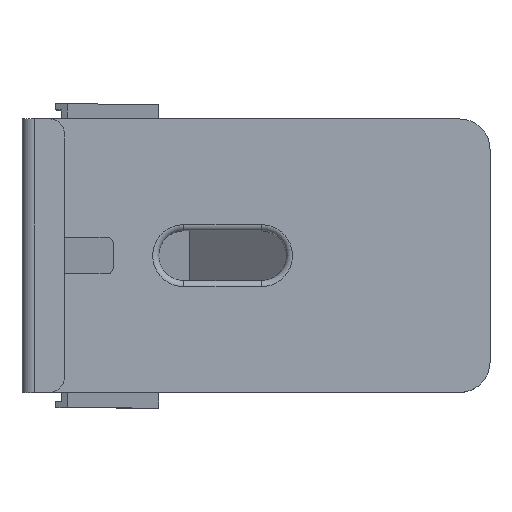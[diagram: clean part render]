
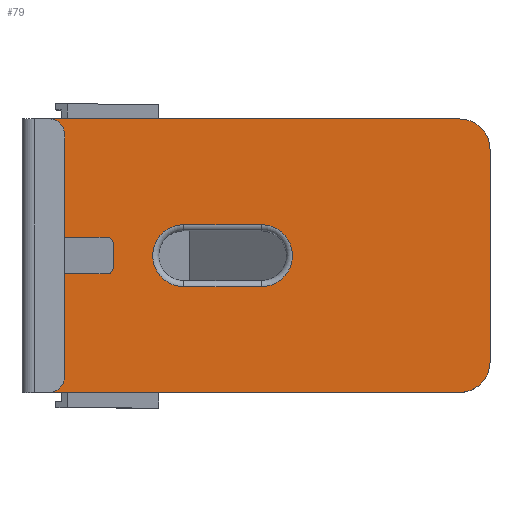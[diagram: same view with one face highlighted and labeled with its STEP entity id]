
A CAD part, top view. The second image highlights one B-rep face of the part: STEP entity #79.
In plain terms, the highlighted planar face has unit normal (0, 0, 1).
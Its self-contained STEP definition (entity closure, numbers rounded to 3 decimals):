
#59=FACE_BOUND('',#245,.T.);
#60=FACE_BOUND('',#246,.T.);
#79=ADVANCED_FACE('',(#59,#60),#144,.T.);
#144=PLANE('',#1296);
#245=EDGE_LOOP('',(#386,#387,#388,#389));
#246=EDGE_LOOP('',(#390,#391,#392,#393,#394,#395,#396,#397,#398,#399,#400,
#401));
#320=CIRCLE('',#1290,10.2);
#321=CIRCLE('',#1291,10.2);
#322=CIRCLE('',#1292,10.);
#323=CIRCLE('',#1293,2.);
#324=CIRCLE('',#1294,2.);
#325=CIRCLE('',#1295,10.);
#386=ORIENTED_EDGE('',*,*,#857,.T.);
#387=ORIENTED_EDGE('',*,*,#858,.T.);
#388=ORIENTED_EDGE('',*,*,#859,.T.);
#389=ORIENTED_EDGE('',*,*,#860,.T.);
#390=ORIENTED_EDGE('',*,*,#861,.T.);
#391=ORIENTED_EDGE('',*,*,#862,.T.);
#392=ORIENTED_EDGE('',*,*,#863,.T.);
#393=ORIENTED_EDGE('',*,*,#864,.F.);
#394=ORIENTED_EDGE('',*,*,#865,.F.);
#395=ORIENTED_EDGE('',*,*,#866,.T.);
#396=ORIENTED_EDGE('',*,*,#867,.T.);
#397=ORIENTED_EDGE('',*,*,#868,.T.);
#398=ORIENTED_EDGE('',*,*,#869,.T.);
#399=ORIENTED_EDGE('',*,*,#870,.F.);
#400=ORIENTED_EDGE('',*,*,#848,.T.);
#401=ORIENTED_EDGE('',*,*,#871,.T.);
#732=VERTEX_POINT('',#1781);
#733=VERTEX_POINT('',#1783);
#740=VERTEX_POINT('',#1800);
#741=VERTEX_POINT('',#1801);
#742=VERTEX_POINT('',#1803);
#743=VERTEX_POINT('',#1805);
#744=VERTEX_POINT('',#1808);
#745=VERTEX_POINT('',#1809);
#746=VERTEX_POINT('',#1811);
#747=VERTEX_POINT('',#1813);
#748=VERTEX_POINT('',#1815);
#749=VERTEX_POINT('',#1817);
#750=VERTEX_POINT('',#1819);
#751=VERTEX_POINT('',#1821);
#752=VERTEX_POINT('',#1823);
#753=VERTEX_POINT('',#1825);
#848=EDGE_CURVE('',#733,#732,#1023,.T.);
#857=EDGE_CURVE('',#740,#741,#1031,.T.);
#858=EDGE_CURVE('',#741,#742,#320,.T.);
#859=EDGE_CURVE('',#742,#743,#1032,.T.);
#860=EDGE_CURVE('',#743,#740,#321,.T.);
#861=EDGE_CURVE('',#744,#745,#1033,.T.);
#862=EDGE_CURVE('',#745,#746,#322,.T.);
#863=EDGE_CURVE('',#746,#747,#1034,.T.);
#864=EDGE_CURVE('',#748,#747,#1035,.T.);
#865=EDGE_CURVE('',#749,#748,#1036,.T.);
#866=EDGE_CURVE('',#749,#750,#323,.T.);
#867=EDGE_CURVE('',#750,#751,#1037,.T.);
#868=EDGE_CURVE('',#751,#752,#324,.T.);
#869=EDGE_CURVE('',#752,#753,#1038,.T.);
#870=EDGE_CURVE('',#733,#753,#1039,.T.);
#871=EDGE_CURVE('',#732,#744,#325,.T.);
#1023=LINE('',#1782,#1161);
#1031=LINE('',#1799,#1169);
#1032=LINE('',#1804,#1170);
#1033=LINE('',#1807,#1171);
#1034=LINE('',#1812,#1172);
#1035=LINE('',#1814,#1173);
#1036=LINE('',#1816,#1174);
#1037=LINE('',#1820,#1175);
#1038=LINE('',#1824,#1176);
#1039=LINE('',#1826,#1177);
#1161=VECTOR('',#1417,1.);
#1169=VECTOR('',#1429,1.);
#1170=VECTOR('',#1432,1.);
#1171=VECTOR('',#1435,1.);
#1172=VECTOR('',#1438,1.);
#1173=VECTOR('',#1439,1.);
#1174=VECTOR('',#1440,1.);
#1175=VECTOR('',#1443,1.);
#1176=VECTOR('',#1446,1.);
#1177=VECTOR('',#1447,1.);
#1290=AXIS2_PLACEMENT_3D('',#1802,#1430,#1431);
#1291=AXIS2_PLACEMENT_3D('',#1806,#1433,#1434);
#1292=AXIS2_PLACEMENT_3D('',#1810,#1436,#1437);
#1293=AXIS2_PLACEMENT_3D('',#1818,#1441,#1442);
#1294=AXIS2_PLACEMENT_3D('',#1822,#1444,#1445);
#1295=AXIS2_PLACEMENT_3D('',#1827,#1448,#1449);
#1296=AXIS2_PLACEMENT_3D('',#1828,#1450,#1451);
#1417=DIRECTION('',(1.,0.,0.));
#1429=DIRECTION('',(1.,0.,0.));
#1430=DIRECTION('',(0.,0.,-1.));
#1431=DIRECTION('',(0.,-1.,0.));
#1432=DIRECTION('',(-1.,0.,0.));
#1433=DIRECTION('',(0.,0.,-1.));
#1434=DIRECTION('',(0.,-1.,0.));
#1435=DIRECTION('',(0.,1.,0.));
#1436=DIRECTION('',(0.,0.,1.));
#1437=DIRECTION('',(0.,-1.,0.));
#1438=DIRECTION('',(-1.,0.,0.));
#1439=DIRECTION('',(0.,1.,0.));
#1440=DIRECTION('',(-1.,0.,0.));
#1441=DIRECTION('',(0.,0.,-1.));
#1442=DIRECTION('',(0.,-1.,0.));
#1443=DIRECTION('',(0.,-1.,0.));
#1444=DIRECTION('',(0.,0.,-1.));
#1445=DIRECTION('',(0.,-1.,0.));
#1446=DIRECTION('',(-1.,0.,0.));
#1447=DIRECTION('',(0.,1.,0.));
#1448=DIRECTION('',(0.,0.,1.));
#1449=DIRECTION('',(0.,-1.,0.));
#1450=DIRECTION('',(0.,0.,1.));
#1451=DIRECTION('',(1.,0.,0.));
#1781=CARTESIAN_POINT('',(67.,-45.,22.));
#1782=CARTESIAN_POINT('',(-77.,-45.,22.));
#1783=CARTESIAN_POINT('',(-71.,-45.,22.));
#1799=CARTESIAN_POINT('',(1.8,10.2,22.));
#1800=CARTESIAN_POINT('',(-23.8,10.2,22.));
#1801=CARTESIAN_POINT('',(1.8,10.2,22.));
#1802=CARTESIAN_POINT('',(1.8,0.,22.));
#1803=CARTESIAN_POINT('',(1.8,-10.2,22.));
#1804=CARTESIAN_POINT('',(-23.8,-10.2,22.));
#1805=CARTESIAN_POINT('',(-23.8,-10.2,22.));
#1806=CARTESIAN_POINT('',(-23.8,0.,22.));
#1807=CARTESIAN_POINT('',(77.,-45.,22.));
#1808=CARTESIAN_POINT('',(77.,-35.,22.));
#1809=CARTESIAN_POINT('',(77.,35.,22.));
#1810=CARTESIAN_POINT('',(67.,35.,22.));
#1811=CARTESIAN_POINT('',(67.,45.,22.));
#1812=CARTESIAN_POINT('',(77.,45.,22.));
#1813=CARTESIAN_POINT('',(-71.,45.,22.));
#1814=CARTESIAN_POINT('',(-71.,-45.,22.));
#1815=CARTESIAN_POINT('',(-71.,6.,22.));
#1816=CARTESIAN_POINT('',(-47.,6.,22.));
#1817=CARTESIAN_POINT('',(-49.,6.,22.));
#1818=CARTESIAN_POINT('',(-49.,4.,22.));
#1819=CARTESIAN_POINT('',(-47.,4.,22.));
#1820=CARTESIAN_POINT('',(-47.,6.,22.));
#1821=CARTESIAN_POINT('',(-47.,-4.,22.));
#1822=CARTESIAN_POINT('',(-49.,-4.,22.));
#1823=CARTESIAN_POINT('',(-49.,-6.,22.));
#1824=CARTESIAN_POINT('',(-47.,-6.,22.));
#1825=CARTESIAN_POINT('',(-71.,-6.,22.));
#1826=CARTESIAN_POINT('',(-71.,-45.,22.));
#1827=CARTESIAN_POINT('',(67.,-35.,22.));
#1828=CARTESIAN_POINT('',(0.,0.,22.));
